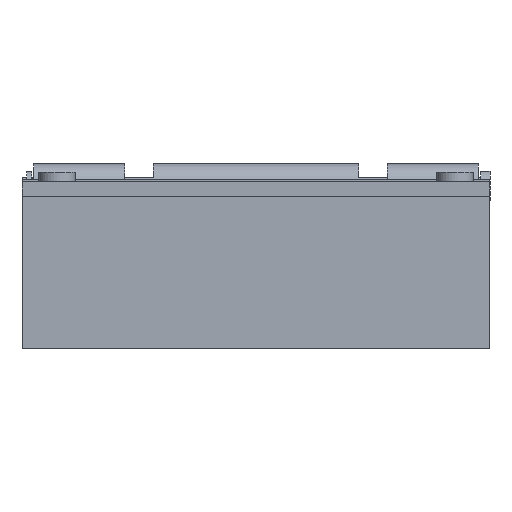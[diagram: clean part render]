
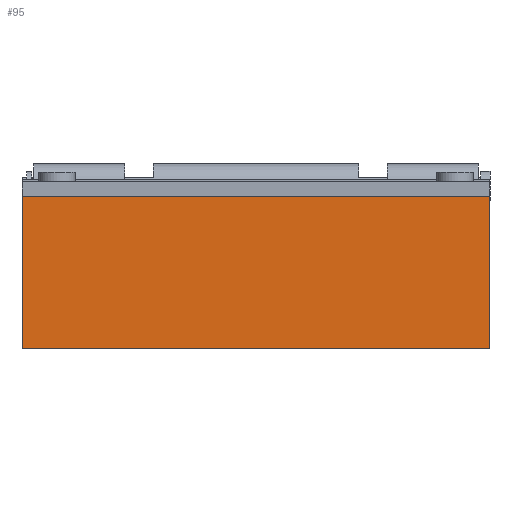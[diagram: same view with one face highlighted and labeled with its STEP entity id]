
A CAD part, left-side view. The second image highlights one B-rep face of the part: STEP entity #95.
In plain terms, the highlighted planar face has unit normal (-1, 0, 0).
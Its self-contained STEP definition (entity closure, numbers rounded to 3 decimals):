
#95 = ADVANCED_FACE('',(#96),#110,.F.);
#96 = FACE_BOUND('',#97,.F.);
#97 = EDGE_LOOP('',(#98,#133,#161,#189));
#98 = ORIENTED_EDGE('',*,*,#99,.F.);
#99 = EDGE_CURVE('',#100,#102,#104,.T.);
#100 = VERTEX_POINT('',#101);
#101 = CARTESIAN_POINT('',(0.,0.,0.));
#102 = VERTEX_POINT('',#103);
#103 = CARTESIAN_POINT('',(0.,0.,13.));
#104 = SURFACE_CURVE('',#105,(#109,#121),.PCURVE_S1.);
#105 = LINE('',#106,#107);
#106 = CARTESIAN_POINT('',(0.,0.,0.));
#107 = VECTOR('',#108,1.);
#108 = DIRECTION('',(0.,0.,1.));
#109 = PCURVE('',#110,#115);
#110 = PLANE('',#111);
#111 = AXIS2_PLACEMENT_3D('',#112,#113,#114);
#112 = CARTESIAN_POINT('',(0.,0.,0.));
#113 = DIRECTION('',(1.,0.,-0.));
#114 = DIRECTION('',(0.,0.,1.));
#115 = DEFINITIONAL_REPRESENTATION('',(#116),#120);
#116 = LINE('',#117,#118);
#117 = CARTESIAN_POINT('',(0.,0.));
#118 = VECTOR('',#119,1.);
#119 = DIRECTION('',(1.,0.));
#120 = ( GEOMETRIC_REPRESENTATION_CONTEXT(2) 
PARAMETRIC_REPRESENTATION_CONTEXT() REPRESENTATION_CONTEXT('2D SPACE',''
  ) );
#121 = PCURVE('',#122,#127);
#122 = PLANE('',#123);
#123 = AXIS2_PLACEMENT_3D('',#124,#125,#126);
#124 = CARTESIAN_POINT('',(0.,0.,0.));
#125 = DIRECTION('',(-0.,1.,0.));
#126 = DIRECTION('',(0.,0.,1.));
#127 = DEFINITIONAL_REPRESENTATION('',(#128),#132);
#128 = LINE('',#129,#130);
#129 = CARTESIAN_POINT('',(0.,0.));
#130 = VECTOR('',#131,1.);
#131 = DIRECTION('',(1.,0.));
#132 = ( GEOMETRIC_REPRESENTATION_CONTEXT(2) 
PARAMETRIC_REPRESENTATION_CONTEXT() REPRESENTATION_CONTEXT('2D SPACE',''
  ) );
#133 = ORIENTED_EDGE('',*,*,#134,.T.);
#134 = EDGE_CURVE('',#100,#135,#137,.T.);
#135 = VERTEX_POINT('',#136);
#136 = CARTESIAN_POINT('',(0.,40.,0.));
#137 = SURFACE_CURVE('',#138,(#142,#149),.PCURVE_S1.);
#138 = LINE('',#139,#140);
#139 = CARTESIAN_POINT('',(0.,0.,0.));
#140 = VECTOR('',#141,1.);
#141 = DIRECTION('',(-0.,1.,0.));
#142 = PCURVE('',#110,#143);
#143 = DEFINITIONAL_REPRESENTATION('',(#144),#148);
#144 = LINE('',#145,#146);
#145 = CARTESIAN_POINT('',(0.,0.));
#146 = VECTOR('',#147,1.);
#147 = DIRECTION('',(0.,-1.));
#148 = ( GEOMETRIC_REPRESENTATION_CONTEXT(2) 
PARAMETRIC_REPRESENTATION_CONTEXT() REPRESENTATION_CONTEXT('2D SPACE',''
  ) );
#149 = PCURVE('',#150,#155);
#150 = PLANE('',#151);
#151 = AXIS2_PLACEMENT_3D('',#152,#153,#154);
#152 = CARTESIAN_POINT('',(0.,0.,0.));
#153 = DIRECTION('',(0.,0.,1.));
#154 = DIRECTION('',(1.,0.,-0.));
#155 = DEFINITIONAL_REPRESENTATION('',(#156),#160);
#156 = LINE('',#157,#158);
#157 = CARTESIAN_POINT('',(0.,0.));
#158 = VECTOR('',#159,1.);
#159 = DIRECTION('',(0.,1.));
#160 = ( GEOMETRIC_REPRESENTATION_CONTEXT(2) 
PARAMETRIC_REPRESENTATION_CONTEXT() REPRESENTATION_CONTEXT('2D SPACE',''
  ) );
#161 = ORIENTED_EDGE('',*,*,#162,.T.);
#162 = EDGE_CURVE('',#135,#163,#165,.T.);
#163 = VERTEX_POINT('',#164);
#164 = CARTESIAN_POINT('',(0.,40.,13.));
#165 = SURFACE_CURVE('',#166,(#170,#177),.PCURVE_S1.);
#166 = LINE('',#167,#168);
#167 = CARTESIAN_POINT('',(0.,40.,0.));
#168 = VECTOR('',#169,1.);
#169 = DIRECTION('',(0.,0.,1.));
#170 = PCURVE('',#110,#171);
#171 = DEFINITIONAL_REPRESENTATION('',(#172),#176);
#172 = LINE('',#173,#174);
#173 = CARTESIAN_POINT('',(0.,-40.));
#174 = VECTOR('',#175,1.);
#175 = DIRECTION('',(1.,0.));
#176 = ( GEOMETRIC_REPRESENTATION_CONTEXT(2) 
PARAMETRIC_REPRESENTATION_CONTEXT() REPRESENTATION_CONTEXT('2D SPACE',''
  ) );
#177 = PCURVE('',#178,#183);
#178 = PLANE('',#179);
#179 = AXIS2_PLACEMENT_3D('',#180,#181,#182);
#180 = CARTESIAN_POINT('',(0.,40.,0.));
#181 = DIRECTION('',(-0.,1.,0.));
#182 = DIRECTION('',(0.,0.,1.));
#183 = DEFINITIONAL_REPRESENTATION('',(#184),#188);
#184 = LINE('',#185,#186);
#185 = CARTESIAN_POINT('',(0.,0.));
#186 = VECTOR('',#187,1.);
#187 = DIRECTION('',(1.,0.));
#188 = ( GEOMETRIC_REPRESENTATION_CONTEXT(2) 
PARAMETRIC_REPRESENTATION_CONTEXT() REPRESENTATION_CONTEXT('2D SPACE',''
  ) );
#189 = ORIENTED_EDGE('',*,*,#190,.F.);
#190 = EDGE_CURVE('',#102,#163,#191,.T.);
#191 = SURFACE_CURVE('',#192,(#196,#203),.PCURVE_S1.);
#192 = LINE('',#193,#194);
#193 = CARTESIAN_POINT('',(0.,0.,13.));
#194 = VECTOR('',#195,1.);
#195 = DIRECTION('',(-0.,1.,0.));
#196 = PCURVE('',#110,#197);
#197 = DEFINITIONAL_REPRESENTATION('',(#198),#202);
#198 = LINE('',#199,#200);
#199 = CARTESIAN_POINT('',(13.,0.));
#200 = VECTOR('',#201,1.);
#201 = DIRECTION('',(0.,-1.));
#202 = ( GEOMETRIC_REPRESENTATION_CONTEXT(2) 
PARAMETRIC_REPRESENTATION_CONTEXT() REPRESENTATION_CONTEXT('2D SPACE',''
  ) );
#203 = PCURVE('',#204,#209);
#204 = PLANE('',#205);
#205 = AXIS2_PLACEMENT_3D('',#206,#207,#208);
#206 = CARTESIAN_POINT('',(0.,0.,13.));
#207 = DIRECTION('',(0.,0.,1.));
#208 = DIRECTION('',(1.,0.,-0.));
#209 = DEFINITIONAL_REPRESENTATION('',(#210),#214);
#210 = LINE('',#211,#212);
#211 = CARTESIAN_POINT('',(0.,0.));
#212 = VECTOR('',#213,1.);
#213 = DIRECTION('',(0.,1.));
#214 = ( GEOMETRIC_REPRESENTATION_CONTEXT(2) 
PARAMETRIC_REPRESENTATION_CONTEXT() REPRESENTATION_CONTEXT('2D SPACE',''
  ) );
